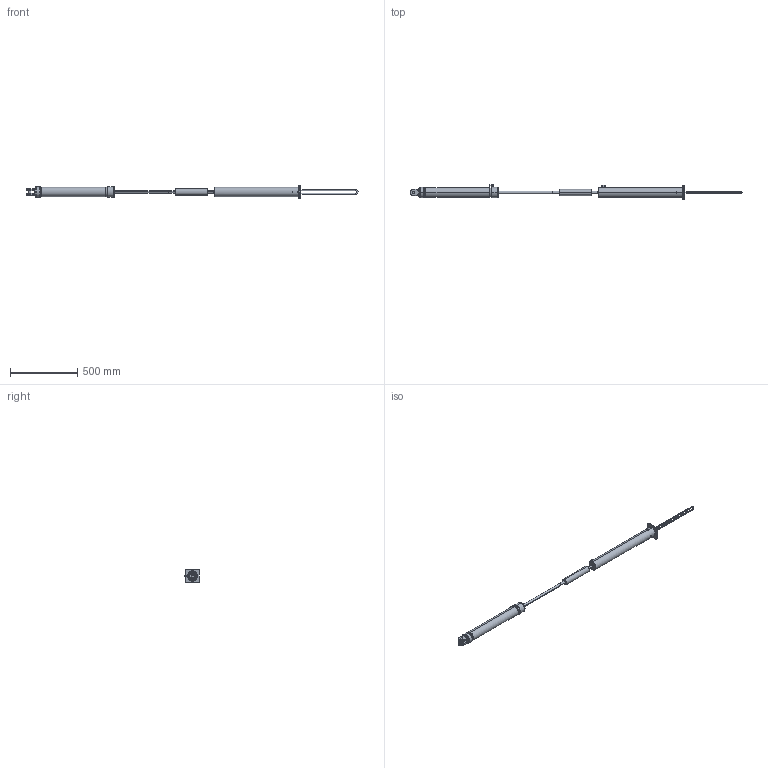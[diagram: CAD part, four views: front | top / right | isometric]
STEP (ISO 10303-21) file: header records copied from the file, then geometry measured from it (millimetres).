
FILE_DESCRIPTION (( 'STEP AP203' ), '1' );
FILE_NAME ('PT_055_S_0400.STEP', '2018-06-04T07:29:50', ( 'utente' ), ( 'Hewlett-Packard Company' ), 'SwSTEP 2.0', 'SolidWorks 2015', '' );
FILE_SCHEMA (( 'CONFIG_CONTROL_DESIGN' ));
Length unit declared in the file: millimetre
Products named in the file (1): PT_055_S_0400
Bounding box: 2468.6 x 107.56 x 100 mm (x, y, z)
Volume: 5575208 mm3; surface area: 412961.4 mm2
Topology: 1 solids, 1 shells, 300 faces, 672 edges, 408 vertices
Faces by surface type: plane 113, cylinder 99, torus 44, cone 44
Entity records: 8937 total; most frequent: CARTESIAN_POINT 2116, DIRECTION 1496, ORIENTED_EDGE 1344, EDGE_CURVE 672, AXIS2_PLACEMENT_3D 606, VERTEX_POINT 408, EDGE_LOOP 338, CIRCLE 305
